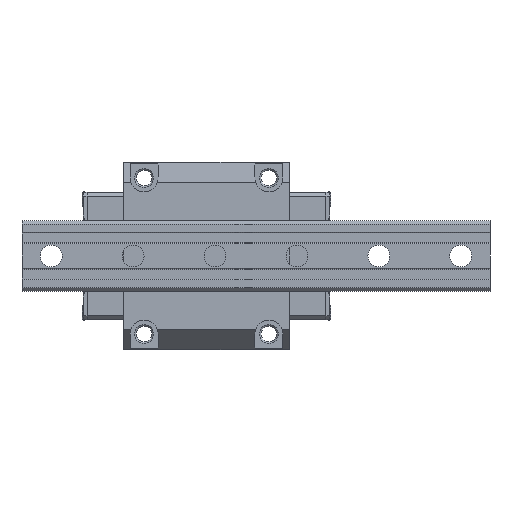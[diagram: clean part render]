
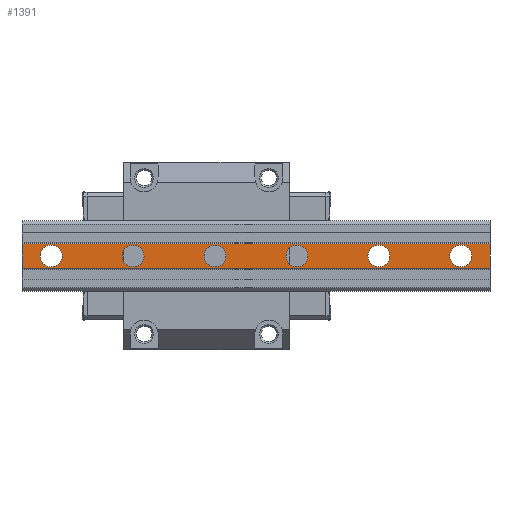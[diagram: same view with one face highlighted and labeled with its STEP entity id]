
A CAD part, front view. The second image highlights one B-rep face of the part: STEP entity #1391.
In plain terms, the highlighted planar face has unit normal (0, -1, 0).
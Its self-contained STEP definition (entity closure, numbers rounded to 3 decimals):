
#1391 = ADVANCED_FACE( '', ( #2914, #2915, #2916, #2917, #2918, #2919, #2920 ), #2921, .F. );
#2914 = FACE_BOUND( '', #4655, .T. );
#2915 = FACE_BOUND( '', #4656, .T. );
#2916 = FACE_BOUND( '', #4657, .T. );
#2917 = FACE_BOUND( '', #4658, .T. );
#2918 = FACE_BOUND( '', #4659, .T. );
#2919 = FACE_BOUND( '', #4660, .T. );
#2920 = FACE_OUTER_BOUND( '', #4661, .T. );
#2921 = PLANE( '', #4662 );
#4655 = EDGE_LOOP( '', ( #8202 ) );
#4656 = EDGE_LOOP( '', ( #8203 ) );
#4657 = EDGE_LOOP( '', ( #8204 ) );
#4658 = EDGE_LOOP( '', ( #8205 ) );
#4659 = EDGE_LOOP( '', ( #8206 ) );
#4660 = EDGE_LOOP( '', ( #8207 ) );
#4661 = EDGE_LOOP( '', ( #8208, #8209, #8210, #8211 ) );
#4662 = AXIS2_PLACEMENT_3D( '', #8212, #8213, #8214 );
#8202 = ORIENTED_EDGE( '', *, *, #11722, .F. );
#8203 = ORIENTED_EDGE( '', *, *, #10641, .F. );
#8204 = ORIENTED_EDGE( '', *, *, #11265, .F. );
#8205 = ORIENTED_EDGE( '', *, *, #11723, .F. );
#8206 = ORIENTED_EDGE( '', *, *, #11724, .F. );
#8207 = ORIENTED_EDGE( '', *, *, #11725, .F. );
#8208 = ORIENTED_EDGE( '', *, *, #11485, .T. );
#8209 = ORIENTED_EDGE( '', *, *, #11726, .F. );
#8210 = ORIENTED_EDGE( '', *, *, #11727, .F. );
#8211 = ORIENTED_EDGE( '', *, *, #11728, .T. );
#8212 = CARTESIAN_POINT( '', ( 150., 0., 8. ) );
#8213 = DIRECTION( '', ( 0., 1., 0. ) );
#8214 = DIRECTION( '', ( 0., 0., 1. ) );
#10641 = EDGE_CURVE( '', #12800, #12800, #12801, .T. );
#11265 = EDGE_CURVE( '', #13833, #13833, #13834, .T. );
#11485 = EDGE_CURVE( '', #14152, #14150, #14153, .T. );
#11722 = EDGE_CURVE( '', #14477, #14477, #14478, .T. );
#11723 = EDGE_CURVE( '', #14479, #14479, #14480, .T. );
#11724 = EDGE_CURVE( '', #14481, #14481, #14482, .T. );
#11725 = EDGE_CURVE( '', #14483, #14483, #14484, .T. );
#11726 = EDGE_CURVE( '', #14485, #14150, #14486, .T. );
#11727 = EDGE_CURVE( '', #14487, #14485, #14488, .T. );
#11728 = EDGE_CURVE( '', #14487, #14152, #14489, .T. );
#12800 = VERTEX_POINT( '', #15859 );
#12801 = CIRCLE( '', #15860, 7. );
#13833 = VERTEX_POINT( '', #17382 );
#13834 = CIRCLE( '', #17383, 7. );
#14150 = VERTEX_POINT( '', #17864 );
#14152 = VERTEX_POINT( '', #17867 );
#14153 = LINE( '', #17868, #17869 );
#14477 = VERTEX_POINT( '', #18346 );
#14478 = CIRCLE( '', #18347, 7. );
#14479 = VERTEX_POINT( '', #18348 );
#14480 = CIRCLE( '', #18349, 7. );
#14481 = VERTEX_POINT( '', #18350 );
#14482 = CIRCLE( '', #18351, 7. );
#14483 = VERTEX_POINT( '', #18352 );
#14484 = CIRCLE( '', #18353, 7. );
#14485 = VERTEX_POINT( '', #18354 );
#14486 = LINE( '', #18355, #18356 );
#14487 = VERTEX_POINT( '', #18357 );
#14488 = LINE( '', #18358, #18359 );
#14489 = LINE( '', #18360, #18361 );
#15859 = CARTESIAN_POINT( '', ( -26.25, 0., -7. ) );
#15860 = AXIS2_PLACEMENT_3D( '', #19482, #19483, #19484 );
#17382 = CARTESIAN_POINT( '', ( 26.25, 0., -7. ) );
#17383 = AXIS2_PLACEMENT_3D( '', #20165, #20166, #20167 );
#17864 = CARTESIAN_POINT( '', ( -150., 0., -8. ) );
#17867 = CARTESIAN_POINT( '', ( -150., 0., 8. ) );
#17868 = CARTESIAN_POINT( '', ( -150., 0., 8. ) );
#17869 = VECTOR( '', #20363, 1000. );
#18346 = CARTESIAN_POINT( '', ( -78.75, 0., -7. ) );
#18347 = AXIS2_PLACEMENT_3D( '', #20582, #20583, #20584 );
#18348 = CARTESIAN_POINT( '', ( 78.75, 0., -7. ) );
#18349 = AXIS2_PLACEMENT_3D( '', #20585, #20586, #20587 );
#18350 = CARTESIAN_POINT( '', ( 131.25, 0., -7. ) );
#18351 = AXIS2_PLACEMENT_3D( '', #20588, #20589, #20590 );
#18352 = CARTESIAN_POINT( '', ( -131.25, 0., -7. ) );
#18353 = AXIS2_PLACEMENT_3D( '', #20591, #20592, #20593 );
#18354 = CARTESIAN_POINT( '', ( 150., 0., -8. ) );
#18355 = CARTESIAN_POINT( '', ( 150., 0., -8. ) );
#18356 = VECTOR( '', #20594, 1000. );
#18357 = CARTESIAN_POINT( '', ( 150., 0., 8. ) );
#18358 = CARTESIAN_POINT( '', ( 150., 0., 8. ) );
#18359 = VECTOR( '', #20595, 1000. );
#18360 = CARTESIAN_POINT( '', ( 150., 0., 8. ) );
#18361 = VECTOR( '', #20596, 1000. );
#19482 = CARTESIAN_POINT( '', ( -26.25, 0., 0. ) );
#19483 = DIRECTION( '', ( 0., -1., 0. ) );
#19484 = DIRECTION( '', ( 0., 0., -1. ) );
#20165 = CARTESIAN_POINT( '', ( 26.25, 0., 0. ) );
#20166 = DIRECTION( '', ( 0., -1., 0. ) );
#20167 = DIRECTION( '', ( 0., 0., -1. ) );
#20363 = DIRECTION( '', ( 0., 0., -1. ) );
#20582 = CARTESIAN_POINT( '', ( -78.75, 0., 0. ) );
#20583 = DIRECTION( '', ( 0., -1., 0. ) );
#20584 = DIRECTION( '', ( 0., 0., -1. ) );
#20585 = CARTESIAN_POINT( '', ( 78.75, 0., 0. ) );
#20586 = DIRECTION( '', ( 0., -1., 0. ) );
#20587 = DIRECTION( '', ( 0., 0., -1. ) );
#20588 = CARTESIAN_POINT( '', ( 131.25, 0., 0. ) );
#20589 = DIRECTION( '', ( 0., -1., 0. ) );
#20590 = DIRECTION( '', ( 0., 0., -1. ) );
#20591 = CARTESIAN_POINT( '', ( -131.25, 0., 0. ) );
#20592 = DIRECTION( '', ( 0., -1., 0. ) );
#20593 = DIRECTION( '', ( 0., 0., -1. ) );
#20594 = DIRECTION( '', ( -1., 0., 0. ) );
#20595 = DIRECTION( '', ( 0., 0., -1. ) );
#20596 = DIRECTION( '', ( -1., 0., 0. ) );
